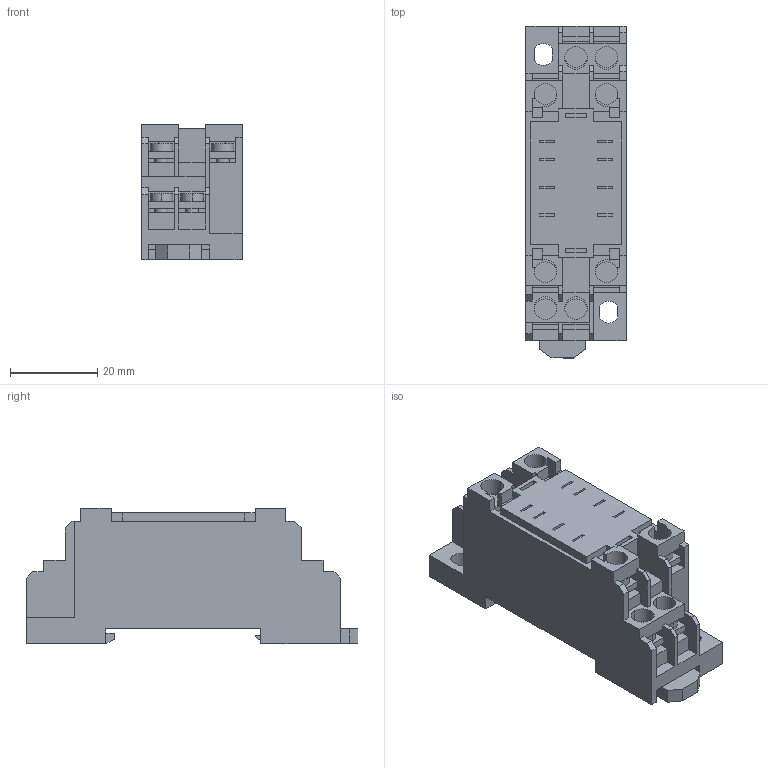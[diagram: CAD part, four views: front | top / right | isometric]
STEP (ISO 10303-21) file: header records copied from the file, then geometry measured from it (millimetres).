
FILE_DESCRIPTION (( 'STEP AP214' ), '1' );
FILE_NAME ('PYFZ_08_E.step', '2019-08-28T05:54:23', ( 'OSMC1.0 ' ), ( ' ' ), 'SwSTEP 2.0', 'SolidWorks 2002025', '' );
FILE_SCHEMA (( 'AUTOMOTIVE_DESIGN' ));
Length unit declared in the file: millimetre
Products named in the file (3): PYFZ_08_E; PYFZ_08_E_SLIDE; PYFZ_08_E_BASE
Assembly tree (2 placements, depth 2):
  PYFZ_08_E
    PYFZ_08_E_SLIDE
    PYFZ_08_E_BASE
Bounding box: 23 x 76 x 31 mm (x, y, z)
Volume: 35234.2 mm3; surface area: 13281.1 mm2
Topology: 2 solids, 2 shells, 348 faces, 988 edges, 654 vertices
Faces by surface type: plane 290, cylinder 58
Entity records: 12140 total; most frequent: CARTESIAN_POINT 1995, ORIENTED_EDGE 1976, DIRECTION 1810, EDGE_CURVE 988, LINE 872, VECTOR 872, VERTEX_POINT 654, AXIS2_PLACEMENT_3D 469
